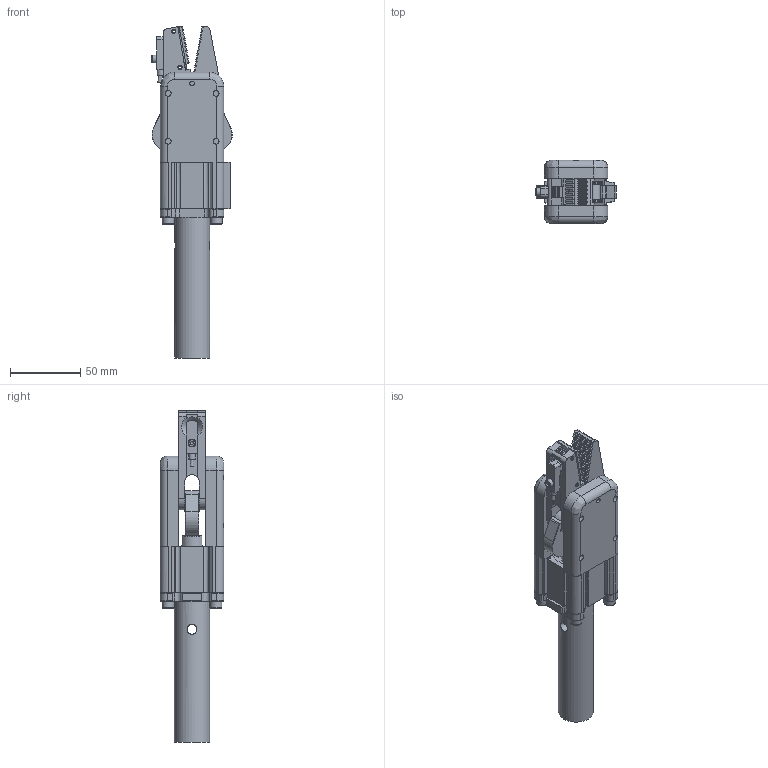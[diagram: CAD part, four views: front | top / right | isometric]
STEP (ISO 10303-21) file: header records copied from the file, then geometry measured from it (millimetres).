
FILE_DESCRIPTION(/* description */ (''),/* implementation_level */ '2;1');
FILE_NAME(/* name */ '8Y00466-GRP32B-CP--25.stp',/* time_stamp */ '2023-02-22T11:29:16+08:00',/* author */ (''),/* organization */ (''),/* preprocessor_version */ 'ST-DEVELOPER v16',/* originating_system */ 'SIEMENS PLM Software NX 10.0',/* authorisation */ '');
FILE_SCHEMA (('AUTOMOTIVE_DESIGN { 1 0 10303 214 3 1 1 1 }'));
Products named in the file (1): _model31
Bounding box: 57.15 x 45 x 235.81 mm (x, y, z)
Volume: 189214.9 mm3; surface area: 85517.6 mm2
Topology: 17 solids, 23 shells, 2070 faces, 4069 edges, 2065 vertices
Faces by surface type: plane 1732, cylinder 207, cone 102, bspline 15, torus 13, sphere 1
Full cylindrical faces by diameter (mm): 2.4 x1, 2.5 x2, 3 x5, 3.1 x1, 3.3 x1, 3.4 x3, 4 x1, 4.1 x1, 4.2 x8, 4.5 x2, 5 x5, 5.2 x4, 5.5 x5, 6 x9, 6.647 x1, 6.8 x1, 7 x3, 8 x7, 8.1 x1, 8.5 x4, 8.566 x2, 8.6 x1, 9 x8, 10 x5, 13 x1, 14 x1, 15 x2, 16 x2, 17 x12, 21 x1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
Entity records: 68441 total; most frequent: CARTESIAN_POINT 13400, DIRECTION 8507, ORIENTED_EDGE 7638, EDGE_CURVE 3819, LINE 3113, VECTOR 3113, AXIS2_PLACEMENT_3D 2697, EDGE_LOOP 2350
